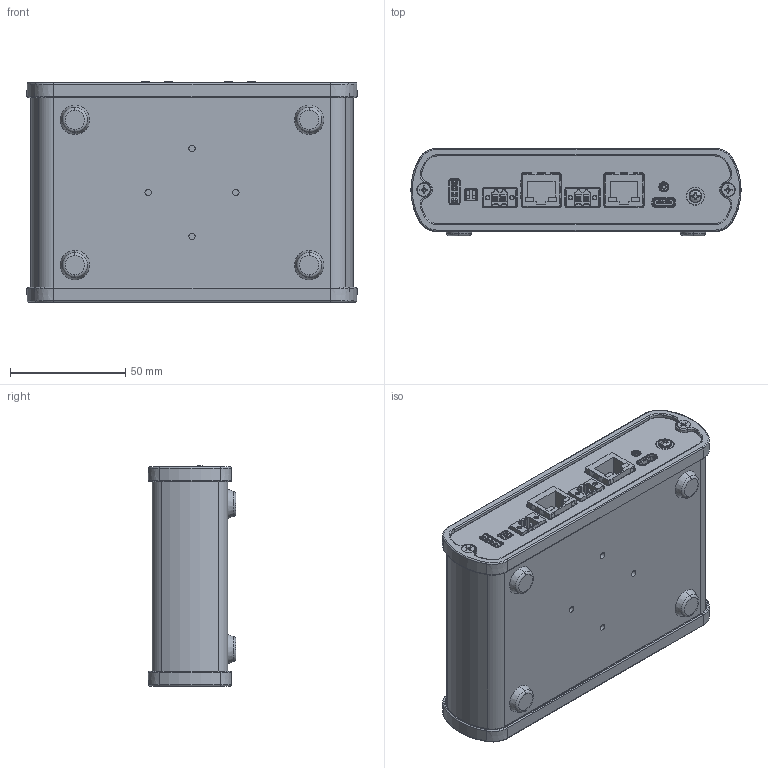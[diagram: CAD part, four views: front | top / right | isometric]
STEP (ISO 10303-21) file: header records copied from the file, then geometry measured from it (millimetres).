
FILE_DESCRIPTION((''),'2;1');
FILE_NAME('CU_IVN-8561','2017-11-07T',('dkendric'),(''),'CREO PARAMETRIC BY PTC INC, 2015380','CREO PARAMETRIC BY PTC INC, 2015380','');
FILE_SCHEMA(('CONFIG_CONTROL_DESIGN'));
Products named in the file (1): CU_IVN-8561
Bounding box: 143.21 x 38 x 95.45 mm (x, y, z)
Volume: 139792.6 mm3; surface area: 117935.1 mm2
Topology: 2 solids, 4 shells, 4282 faces, 11928 edges, 7691 vertices
Faces by surface type: plane 2168, cylinder 876, extrusion 806, cone 164, torus 136, bspline 114, sphere 18
Entity records: 147864 total; most frequent: CARTESIAN_POINT 40680, ORIENTED_EDGE 23696, DIRECTION 19392, EDGE_CURVE 11848, VECTOR 8174, VERTEX_POINT 7767, LINE 7368, AXIS2_PLACEMENT_3D 5609
